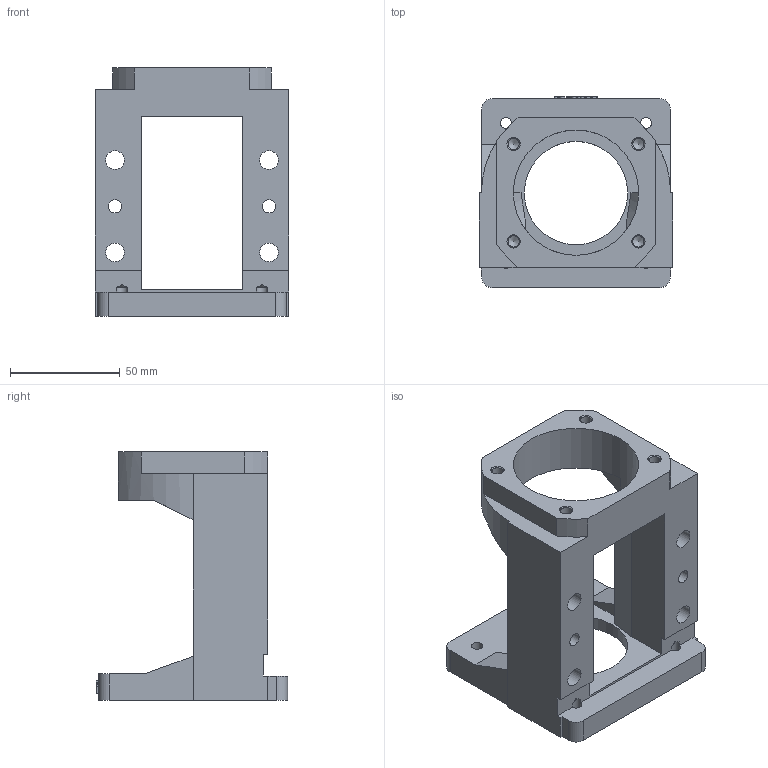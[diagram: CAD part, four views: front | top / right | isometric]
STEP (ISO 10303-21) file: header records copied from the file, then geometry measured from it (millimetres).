
FILE_DESCRIPTION(/* description */ (''),/* implementation_level */ '2;1');
FILE_NAME(/* name */ 'M80EP-FKA20-A.stp',/* time_stamp */ '2016-10-27T10:26:21+08:00',/* author */ (''),/* organization */ (''),/* preprocessor_version */ 'ST-DEVELOPER v15',/* originating_system */ 'SIEMENS PLM Software NX 8.5',/* authorisation */ '');
FILE_SCHEMA (('CONFIG_CONTROL_DESIGN'));
Length unit declared in the file: millimetre
Products named in the file (1): MBA20-EP
Bounding box: 88 x 87 x 113 mm (x, y, z)
Volume: 212482.9 mm3; surface area: 55037.6 mm2
Topology: 1 solids, 1 shells, 195 faces, 541 edges, 359 vertices
Faces by surface type: plane 107, extrusion 41, cylinder 31, cone 16
Full cylindrical faces by diameter (mm): 5.1 x8, 6 x2, 8 x2, 8.5 x4, 14 x4, 47 x1, 57 x1, 70 x1
Entity records: 6600 total; most frequent: CARTESIAN_POINT 2026, ORIENTED_EDGE 972, DIRECTION 724, EDGE_CURVE 486, VERTEX_POINT 347, EDGE_LOOP 269, VECTOR 260, AXIS2_PLACEMENT_3D 232
